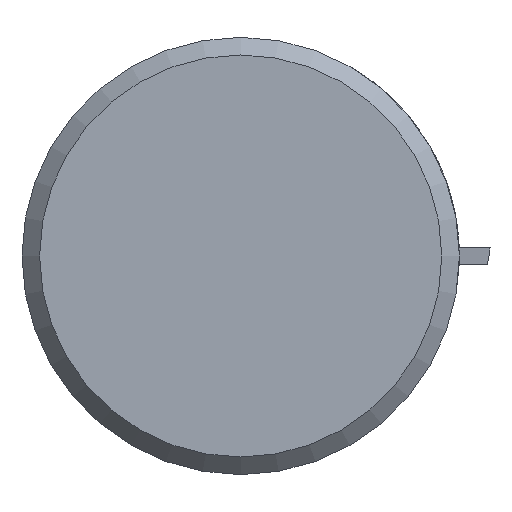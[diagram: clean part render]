
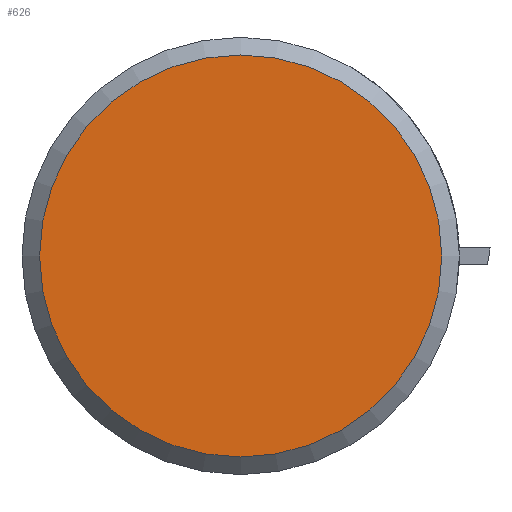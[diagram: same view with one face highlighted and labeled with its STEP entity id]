
A CAD part, left-side view. The second image highlights one B-rep face of the part: STEP entity #626.
In plain terms, the highlighted planar face has unit normal (-1, 0, 0).
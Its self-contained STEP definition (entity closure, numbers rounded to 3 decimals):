
#45=CIRCLE('',#706,11.4);
#102=FACE_OUTER_BOUND('',#138,.T.);
#138=EDGE_LOOP('',(#486));
#279=VERTEX_POINT('',#1112);
#355=EDGE_CURVE('',#279,#279,#45,.T.);
#486=ORIENTED_EDGE('',*,*,#355,.T.);
#562=PLANE('',#705);
#626=ADVANCED_FACE('',(#102),#562,.T.);
#705=AXIS2_PLACEMENT_3D('',#1111,#859,#860);
#706=AXIS2_PLACEMENT_3D('',#1113,#861,#862);
#859=DIRECTION('center_axis',(-1.,0.,0.));
#860=DIRECTION('ref_axis',(0.,0.,1.));
#861=DIRECTION('center_axis',(-1.,0.,0.));
#862=DIRECTION('ref_axis',(0.,0.,1.));
#1111=CARTESIAN_POINT('Origin',(0.,0.,0.));
#1112=CARTESIAN_POINT('',(0.,11.4,0.));
#1113=CARTESIAN_POINT('Origin',(0.,0.,0.));
